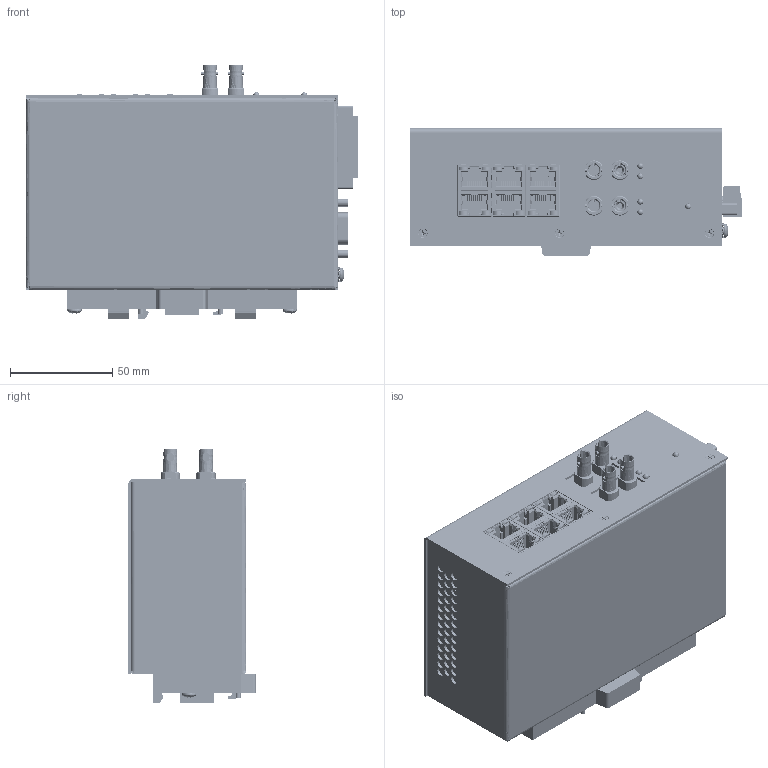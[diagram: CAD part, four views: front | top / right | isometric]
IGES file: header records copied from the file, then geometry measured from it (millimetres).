
Start section: SolidWorks IGES file using analytic representation for surfaces
Global section: file name: W:\Teams\Mech\SE data\Product_Lines\Customer 3D Models (Step files)\Switches\700 series\708FX2\708FX2 - IGES - Parasolid - STEP\IGES\708FX2.IGS; native system: SolidWorks 2022; preprocessor: SolidWorks 2022; author: joseph.cirabisi; date: 230210.120723; units: inch
Bounding box: 162.02 x 62.18 x 123.91 mm (x, y, z)
Surface area: 258953 mm2 (no closed solid volume)
Topology: 0 solids, 0 shells, 12342 faces, 119272 edges, 119079 vertices
Faces by surface type: bspline 9253, revolution 3089
